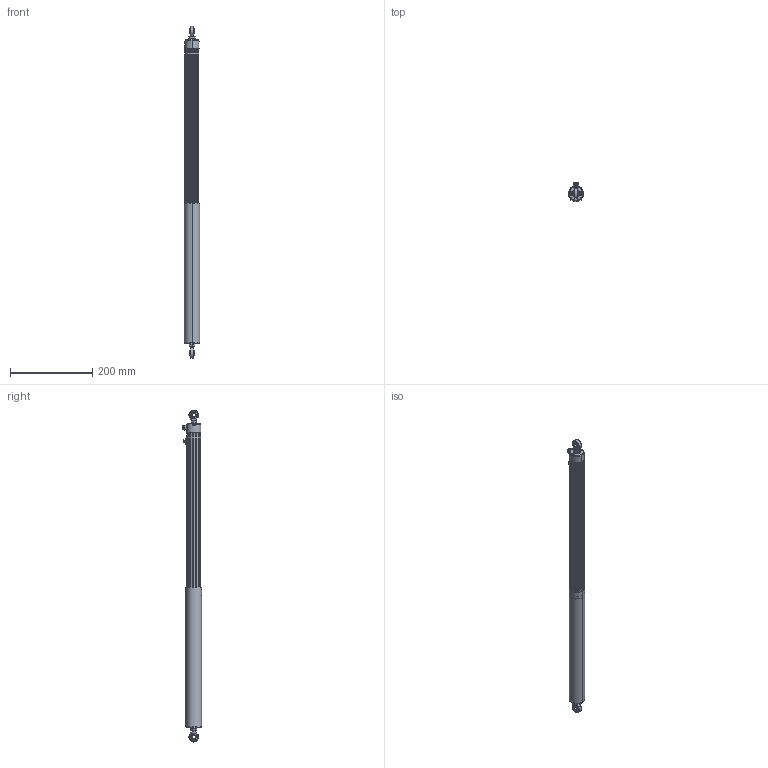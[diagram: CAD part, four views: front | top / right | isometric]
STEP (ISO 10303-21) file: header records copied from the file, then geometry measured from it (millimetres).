
FILE_DESCRIPTION (( 'STEP AP214' ), '1' );
FILE_NAME ('0300.STEP', '2009-01-27T10:10:29', ( 'novotechnik' ), ( 'novotechnik' ), 'SwSTEP 2.0', 'SolidWorks 2009', '' );
FILE_SCHEMA (( 'AUTOMOTIVE_DESIGN' ));
Length unit declared in the file: millimetre
Products named in the file (3): 0300_Bew; 0300
Assembly tree (2 placements, depth 2):
  0300
    0300_Bew
    0300
Bounding box: 38 x 46.6 x 808.6 mm (x, y, z)
Volume: 483767.8 mm3; surface area: 180581.9 mm2
Topology: 34 solids, 34 shells, 1092 faces, 2750 edges, 1748 vertices
Faces by surface type: cylinder 451, plane 338, cone 173, bspline 70, torus 42, sphere 18
Entity records: 48018 total; most frequent: CARTESIAN_POINT 9403, DIRECTION 5760, ORIENTED_EDGE 5486, EDGE_CURVE 2743, AXIS2_PLACEMENT_3D 2278, VERTEX_POINT 1745, CIRCLE 1251, VECTOR 1204
